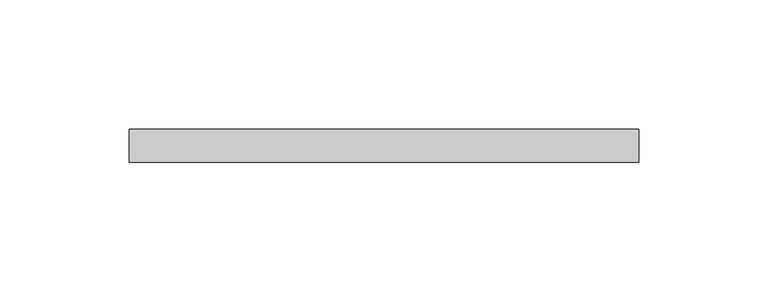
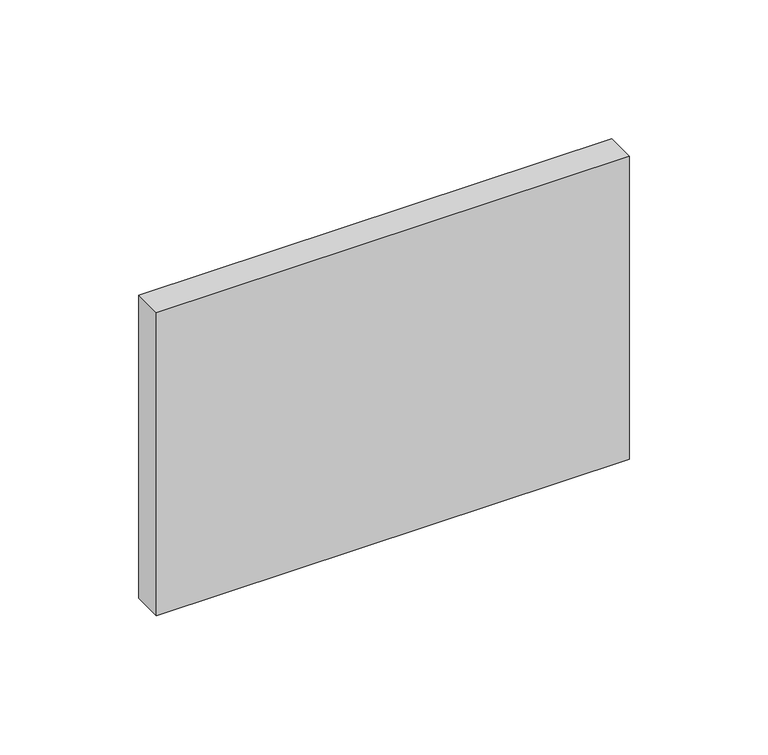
"""IFC4 building model written with IfcOpenShell, lengths in millimetres: proxy geometry, GRADIENT^TABLE 7_PYRAMID BASES-POWER LID."""

from ifc_helpers import new_model, si_unit, origin, origin_with_axes, place, context, project, spatial, polyline, outline, extrude, source, transform, mapped, element, save


def generic_models_194ffc6f(model_context):
    return source(origin(), model_context, "Body", "SweptSolid", [
        extrude(outline(polyline([(0.0, 0.0), (0.0, 12.7), (196.85, 12.7), (196.85, 0.0), (0.0, 0.0)])), origin_with_axes(), (0.0, 0.0, 1.0), 133.35),
    ])


if __name__ == "__main__":
    model = new_model("IFC4")
    model_context = context("Model", 3, world=origin())
    ifc_project = project(units=[si_unit("LENGTHUNIT", "METRE", prefix="MILLI")], contexts=[model_context])
    site = spatial("IfcSite", under=ifc_project)
    building = spatial("IfcBuilding", under=site)
    placement = place(None, origin())
    generic_models_shape = generic_models_194ffc6f(model_context)
    element("IfcBuildingElementProxy", 1, Name="GRADIENT^TABLE 7_PYRAMID BASES-POWER LID", ObjectType="GRADIENT^TABLE 7_PYRAMID BASES-POWER LID", at=placement, inside=building, context=model_context, shape_type="MappedRepresentation", body=[
        mapped(generic_models_shape, transform((0.0, 0.0, 0.0), x_axis=(1.0, 0.0, 0.0), y_axis=(0.0, 1.0, 0.0), z_axis=(0.0, 0.0, 1.0))),
    ])
    save(model, "model.ifc")
